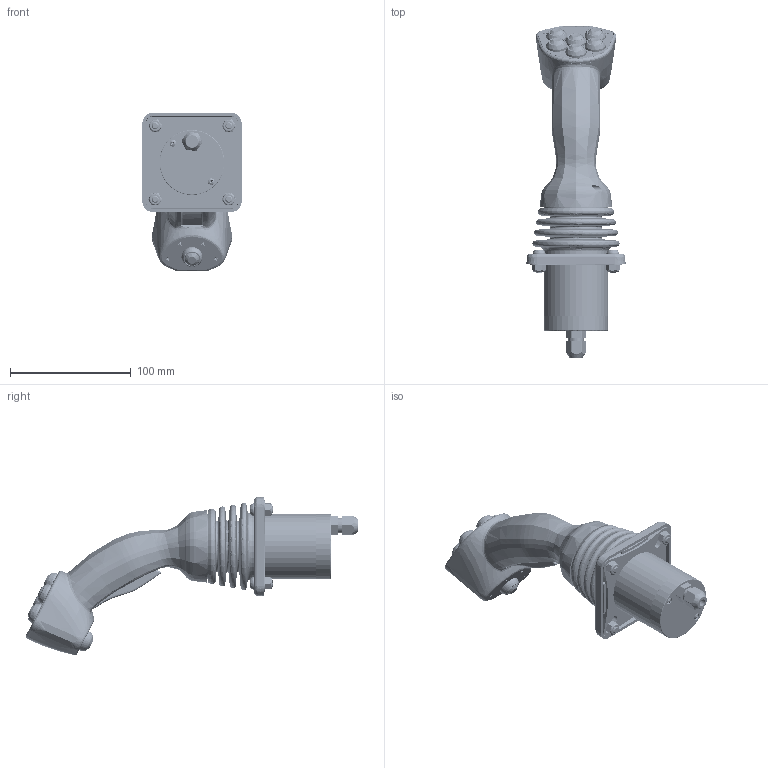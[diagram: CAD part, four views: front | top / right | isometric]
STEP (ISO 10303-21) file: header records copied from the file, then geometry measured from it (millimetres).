
FILE_DESCRIPTION (( 'STEP AP214' ), '1' );
FILE_NAME ('TRY52_2511161C1.STEP', '2016-02-26T11:45:30', ( '' ), ( '' ), 'SwSTEP 2.0', 'SolidWorks 2016', '' );
FILE_SCHEMA (( 'AUTOMOTIVE_DESIGN' ));
Length unit declared in the file: millimetre
Products named in the file (19): A0852_Adaptor, PCB, MS, #1_revB; A0639_Skid Plate, 1.895in OD_revA; Pan Cross Head_AI_CR-PHMS 0.112-40x0.875x0.875-N; 900-737_93625A250; 900-736_92095A238; A0857_HOUSING, BOT, MS, 0.48IN TAP''''D_rev 1; dummy-front screw_91420A120; 900-231_Shaft, MS, 4.57in, SS_rev C; A0834_BEZEL, MS, #2_rev3_DAL Housing; A0833_HOUSING, MS, DROP-IN, #2_revB_DAL Housing; MF3 rev8.10_Standard; IPR3SAD; ISR-3SAD200; TRY52_2511161C1; 505-099_Assembly; 900-721_BootMsCjSilicone_Rev_B; A1094_Plug, CJ, JS_rev1; A5034_BootRetainerCJTop_Rev_A; CJ3256 UPPER FACEPLATE
Assembly tree (48 placements, depth 2):
  TRY52_2511161C1
    MF3 rev8.10_Standard
    A0833_HOUSING, MS, DROP-IN, #2_revB_DAL Housing
    A0834_BEZEL, MS, #2_rev3_DAL Housing
    900-231_Shaft, MS, 4.57in, SS_rev C
    dummy-front screw_91420A120  x8
    A0857_HOUSING, BOT, MS, 0.48IN TAP''''D_rev 1
    900-736_92095A238  x4
    900-737_93625A250  x4
    Pan Cross Head_AI_CR-PHMS 0.112-40x0.875x0.875-N  x12
    A0639_Skid Plate, 1.895in OD_revA
    A0852_Adaptor, PCB, MS, #1_revB
    CJ3256 UPPER FACEPLATE  x2
    A5034_BootRetainerCJTop_Rev_A
    A1094_Plug, CJ, JS_rev1
    900-721_BootMsCjSilicone_Rev_B
    505-099_Assembly
    ISR-3SAD200
    IPR3SAD  x6
Bounding box: 82.2 x 275.15 x 131.16 mm (x, y, z)
Volume: 272782.1 mm3; surface area: 268230.1 mm2
Topology: 56 solids, 284 shells, 6649 faces, 17056 edges, 10920 vertices
Faces by surface type: cylinder 2352, plane 1524, cone 1458, bspline 1304, torus 8, sphere 3
Entity records: 243225 total; most frequent: CARTESIAN_POINT 154834, ORIENTED_EDGE 19620, DIRECTION 15485, EDGE_CURVE 10310, VERTEX_POINT 6962, AXIS2_PLACEMENT_3D 5868, EDGE_LOOP 4164, ADVANCED_FACE 3769
